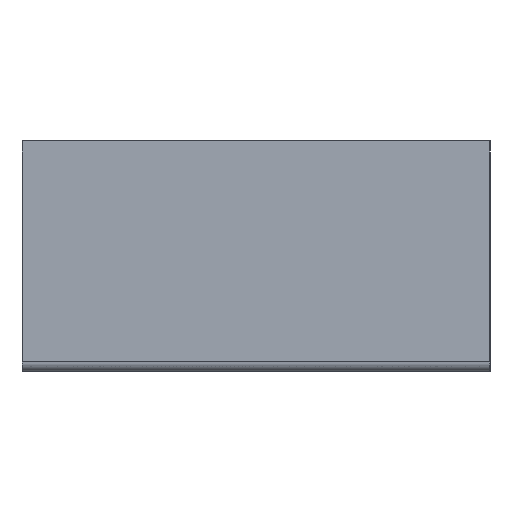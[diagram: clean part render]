
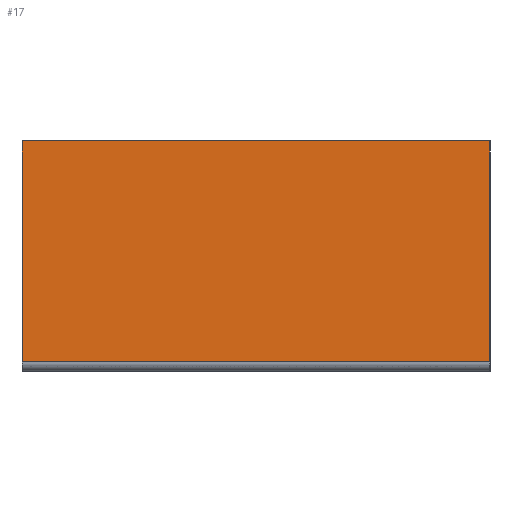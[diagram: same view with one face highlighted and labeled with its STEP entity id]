
A CAD part, left-side view. The second image highlights one B-rep face of the part: STEP entity #17.
In plain terms, the highlighted planar face has unit normal (-1, 0, 0).
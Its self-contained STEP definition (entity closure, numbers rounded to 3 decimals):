
#17 = ADVANCED_FACE('',(#18),#32,.F.);
#18 = FACE_BOUND('',#19,.F.);
#19 = EDGE_LOOP('',(#20,#55,#83,#111));
#20 = ORIENTED_EDGE('',*,*,#21,.T.);
#21 = EDGE_CURVE('',#22,#24,#26,.T.);
#22 = VERTEX_POINT('',#23);
#23 = CARTESIAN_POINT('',(-130.,90.,88.5));
#24 = VERTEX_POINT('',#25);
#25 = CARTESIAN_POINT('',(-130.,-90.,88.5));
#26 = SURFACE_CURVE('',#27,(#31,#43),.PCURVE_S1.);
#27 = LINE('',#28,#29);
#28 = CARTESIAN_POINT('',(-130.,90.,88.5));
#29 = VECTOR('',#30,1.);
#30 = DIRECTION('',(0.,-1.,0.));
#31 = PCURVE('',#32,#37);
#32 = PLANE('',#33);
#33 = AXIS2_PLACEMENT_3D('',#34,#35,#36);
#34 = CARTESIAN_POINT('',(-130.,90.,88.5));
#35 = DIRECTION('',(1.,0.,0.));
#36 = DIRECTION('',(0.,0.,-1.));
#37 = DEFINITIONAL_REPRESENTATION('',(#38),#42);
#38 = LINE('',#39,#40);
#39 = CARTESIAN_POINT('',(0.,0.));
#40 = VECTOR('',#41,1.);
#41 = DIRECTION('',(0.,-1.));
#42 = ( GEOMETRIC_REPRESENTATION_CONTEXT(2) 
PARAMETRIC_REPRESENTATION_CONTEXT() REPRESENTATION_CONTEXT('2D SPACE',''
  ) );
#43 = PCURVE('',#44,#49);
#44 = PLANE('',#45);
#45 = AXIS2_PLACEMENT_3D('',#46,#47,#48);
#46 = CARTESIAN_POINT('',(-128.5,90.,88.5));
#47 = DIRECTION('',(-0.,-0.,-1.));
#48 = DIRECTION('',(-1.,0.,0.));
#49 = DEFINITIONAL_REPRESENTATION('',(#50),#54);
#50 = LINE('',#51,#52);
#51 = CARTESIAN_POINT('',(1.5,0.));
#52 = VECTOR('',#53,1.);
#53 = DIRECTION('',(0.,-1.));
#54 = ( GEOMETRIC_REPRESENTATION_CONTEXT(2) 
PARAMETRIC_REPRESENTATION_CONTEXT() REPRESENTATION_CONTEXT('2D SPACE',''
  ) );
#55 = ORIENTED_EDGE('',*,*,#56,.T.);
#56 = EDGE_CURVE('',#24,#57,#59,.T.);
#57 = VERTEX_POINT('',#58);
#58 = CARTESIAN_POINT('',(-130.,-90.,3.5));
#59 = SURFACE_CURVE('',#60,(#64,#71),.PCURVE_S1.);
#60 = LINE('',#61,#62);
#61 = CARTESIAN_POINT('',(-130.,-90.,88.5));
#62 = VECTOR('',#63,1.);
#63 = DIRECTION('',(0.,0.,-1.));
#64 = PCURVE('',#32,#65);
#65 = DEFINITIONAL_REPRESENTATION('',(#66),#70);
#66 = LINE('',#67,#68);
#67 = CARTESIAN_POINT('',(0.,-180.));
#68 = VECTOR('',#69,1.);
#69 = DIRECTION('',(1.,0.));
#70 = ( GEOMETRIC_REPRESENTATION_CONTEXT(2) 
PARAMETRIC_REPRESENTATION_CONTEXT() REPRESENTATION_CONTEXT('2D SPACE',''
  ) );
#71 = PCURVE('',#72,#77);
#72 = PLANE('',#73);
#73 = AXIS2_PLACEMENT_3D('',#74,#75,#76);
#74 = CARTESIAN_POINT('',(0.,-90.,18.836));
#75 = DIRECTION('',(-0.,-1.,-0.));
#76 = DIRECTION('',(0.,0.,-1.));
#77 = DEFINITIONAL_REPRESENTATION('',(#78),#82);
#78 = LINE('',#79,#80);
#79 = CARTESIAN_POINT('',(-69.664,-130.));
#80 = VECTOR('',#81,1.);
#81 = DIRECTION('',(1.,0.));
#82 = ( GEOMETRIC_REPRESENTATION_CONTEXT(2) 
PARAMETRIC_REPRESENTATION_CONTEXT() REPRESENTATION_CONTEXT('2D SPACE',''
  ) );
#83 = ORIENTED_EDGE('',*,*,#84,.F.);
#84 = EDGE_CURVE('',#85,#57,#87,.T.);
#85 = VERTEX_POINT('',#86);
#86 = CARTESIAN_POINT('',(-130.,90.,3.5));
#87 = SURFACE_CURVE('',#88,(#92,#99),.PCURVE_S1.);
#88 = LINE('',#89,#90);
#89 = CARTESIAN_POINT('',(-130.,90.,3.5));
#90 = VECTOR('',#91,1.);
#91 = DIRECTION('',(0.,-1.,0.));
#92 = PCURVE('',#32,#93);
#93 = DEFINITIONAL_REPRESENTATION('',(#94),#98);
#94 = LINE('',#95,#96);
#95 = CARTESIAN_POINT('',(85.,0.));
#96 = VECTOR('',#97,1.);
#97 = DIRECTION('',(0.,-1.));
#98 = ( GEOMETRIC_REPRESENTATION_CONTEXT(2) 
PARAMETRIC_REPRESENTATION_CONTEXT() REPRESENTATION_CONTEXT('2D SPACE',''
  ) );
#99 = PCURVE('',#100,#105);
#100 = CYLINDRICAL_SURFACE('',#101,3.5);
#101 = AXIS2_PLACEMENT_3D('',#102,#103,#104);
#102 = CARTESIAN_POINT('',(-126.5,90.,3.5));
#103 = DIRECTION('',(-0.,1.,-0.));
#104 = DIRECTION('',(-1.,-0.,0.));
#105 = DEFINITIONAL_REPRESENTATION('',(#106),#110);
#106 = LINE('',#107,#108);
#107 = CARTESIAN_POINT('',(-0.,0.));
#108 = VECTOR('',#109,1.);
#109 = DIRECTION('',(-0.,-1.));
#110 = ( GEOMETRIC_REPRESENTATION_CONTEXT(2) 
PARAMETRIC_REPRESENTATION_CONTEXT() REPRESENTATION_CONTEXT('2D SPACE',''
  ) );
#111 = ORIENTED_EDGE('',*,*,#112,.F.);
#112 = EDGE_CURVE('',#22,#85,#113,.T.);
#113 = SURFACE_CURVE('',#114,(#118,#125),.PCURVE_S1.);
#114 = LINE('',#115,#116);
#115 = CARTESIAN_POINT('',(-130.,90.,88.5));
#116 = VECTOR('',#117,1.);
#117 = DIRECTION('',(0.,0.,-1.));
#118 = PCURVE('',#32,#119);
#119 = DEFINITIONAL_REPRESENTATION('',(#120),#124);
#120 = LINE('',#121,#122);
#121 = CARTESIAN_POINT('',(0.,0.));
#122 = VECTOR('',#123,1.);
#123 = DIRECTION('',(1.,0.));
#124 = ( GEOMETRIC_REPRESENTATION_CONTEXT(2) 
PARAMETRIC_REPRESENTATION_CONTEXT() REPRESENTATION_CONTEXT('2D SPACE',''
  ) );
#125 = PCURVE('',#126,#131);
#126 = PLANE('',#127);
#127 = AXIS2_PLACEMENT_3D('',#128,#129,#130);
#128 = CARTESIAN_POINT('',(0.,90.,18.836));
#129 = DIRECTION('',(-0.,-1.,-0.));
#130 = DIRECTION('',(0.,0.,-1.));
#131 = DEFINITIONAL_REPRESENTATION('',(#132),#136);
#132 = LINE('',#133,#134);
#133 = CARTESIAN_POINT('',(-69.664,-130.));
#134 = VECTOR('',#135,1.);
#135 = DIRECTION('',(1.,0.));
#136 = ( GEOMETRIC_REPRESENTATION_CONTEXT(2) 
PARAMETRIC_REPRESENTATION_CONTEXT() REPRESENTATION_CONTEXT('2D SPACE',''
  ) );
